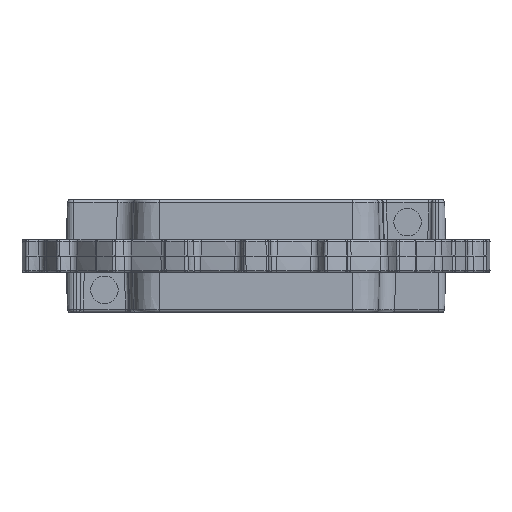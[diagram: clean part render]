
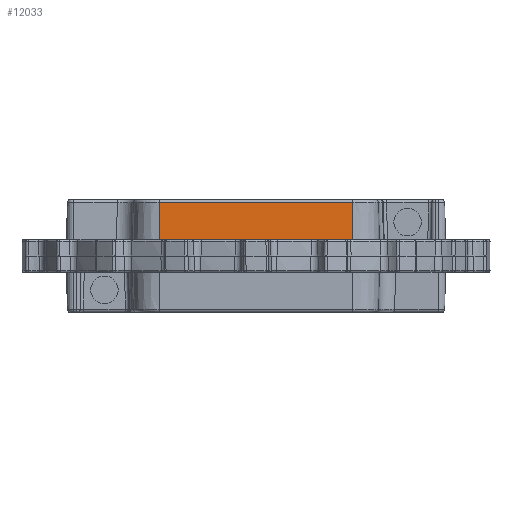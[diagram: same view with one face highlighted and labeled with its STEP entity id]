
A CAD part, front view. The second image highlights one B-rep face of the part: STEP entity #12033.
In plain terms, the highlighted planar face has unit normal (0, -1, 0.018).
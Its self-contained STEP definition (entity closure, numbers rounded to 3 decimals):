
#10705=FACE_OUTER_BOUND('',#15314,.T.);
#12033=ADVANCED_FACE('',(#10705),#13396,.F.);
#13396=PLANE('',#31878);
#15314=EDGE_LOOP('',(#18181,#18182,#18183,#18184));
#18181=ORIENTED_EDGE('',*,*,#26640,.T.);
#18182=ORIENTED_EDGE('',*,*,#26641,.T.);
#18183=ORIENTED_EDGE('',*,*,#26642,.F.);
#18184=ORIENTED_EDGE('',*,*,#26617,.T.);
#24608=VERTEX_POINT('',#41248);
#24609=VERTEX_POINT('',#41252);
#24620=VERTEX_POINT('',#41330);
#24621=VERTEX_POINT('',#41334);
#26617=EDGE_CURVE('',#24608,#24609,#29739,.T.);
#26640=EDGE_CURVE('',#24609,#24620,#29750,.T.);
#26641=EDGE_CURVE('',#24620,#24621,#29751,.T.);
#26642=EDGE_CURVE('',#24608,#24621,#29752,.T.);
#29739=LINE('',#41253,#30793);
#29750=LINE('',#41331,#30804);
#29751=LINE('',#41333,#30805);
#29752=LINE('',#41335,#30806);
#30793=VECTOR('',#34548,1.);
#30804=VECTOR('',#34603,1.);
#30805=VECTOR('',#34606,1.);
#30806=VECTOR('',#34607,1.);
#31878=AXIS2_PLACEMENT_3D('',#41336,#34608,#34609);
#34548=DIRECTION('',(-1.,0.,0.));
#34603=DIRECTION('',(0.,-0.017,-1.));
#34606=DIRECTION('',(1.,0.,0.));
#34607=DIRECTION('',(0.,-0.017,-1.));
#34608=DIRECTION('',(0.,1.,-0.017));
#34609=DIRECTION('',(0.,0.017,1.));
#41248=CARTESIAN_POINT('',(30.,262.303,16.517));
#41252=CARTESIAN_POINT('',(-30.,262.303,16.517));
#41253=CARTESIAN_POINT('',(-30.,262.303,16.517));
#41330=CARTESIAN_POINT('',(-30.,262.075,3.483));
#41331=CARTESIAN_POINT('',(-30.,262.321,17.535));
#41333=CARTESIAN_POINT('',(30.,262.075,3.483));
#41334=CARTESIAN_POINT('',(30.,262.075,3.483));
#41335=CARTESIAN_POINT('',(30.,262.321,17.535));
#41336=CARTESIAN_POINT('',(0.,262.321,17.535));
